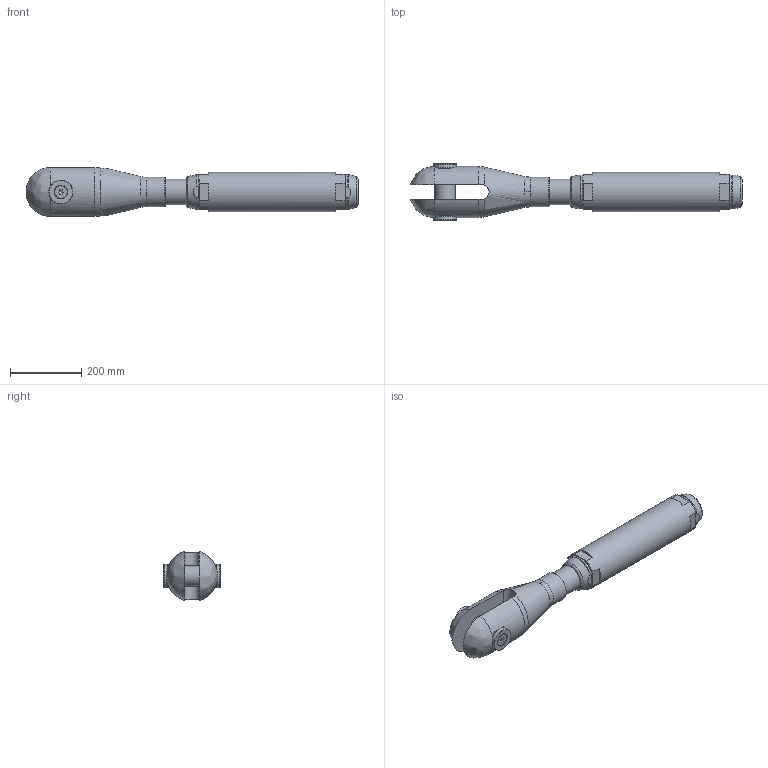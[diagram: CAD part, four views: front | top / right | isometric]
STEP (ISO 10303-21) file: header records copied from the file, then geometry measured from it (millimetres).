
FILE_DESCRIPTION(/* description */ (''),/* implementation_level */ '2;1');
FILE_NAME(/* name */ 'TBC 40_S355',/* time_stamp */ '2023-05-23T18:17:48+02:00',/* author */ (''),/* organization */ (''),/* preprocessor_version */ 'ST-DEVELOPER v16.5',/* originating_system */ 'Rhino 7.22',/* authorisation */ '');
FILE_SCHEMA (('CONFIG_CONTROL_DESIGN'));
Length unit declared in the file: millimetre
Products named in the file (1): Document
Bounding box: 934.87 x 158.36 x 137.74 mm (x, y, z)
Volume: 6919792.4 mm3; surface area: 616877.6 mm2
Topology: 9 solids, 9 shells, 125 faces, 340 edges, 234 vertices
Faces by surface type: plane 58, bspline 35, cylinder 32
Full cylindrical faces by diameter (mm): 17.294 x2, 20 x2, 21 x2, 35.4 x2, 58 x1, 59 x2, 66 x2, 68.752 x4, 72 x1, 76 x1, 83 x1, 110 x1
Entity records: 5347 total; most frequent: CARTESIAN_POINT 3170, ORIENTED_EDGE 672, EDGE_CURVE 336, VERTEX_POINT 234, EDGE_LOOP 144, B_SPLINE_CURVE_WITH_KNOTS 144, ADVANCED_FACE 125, FACE_OUTER_BOUND 125
